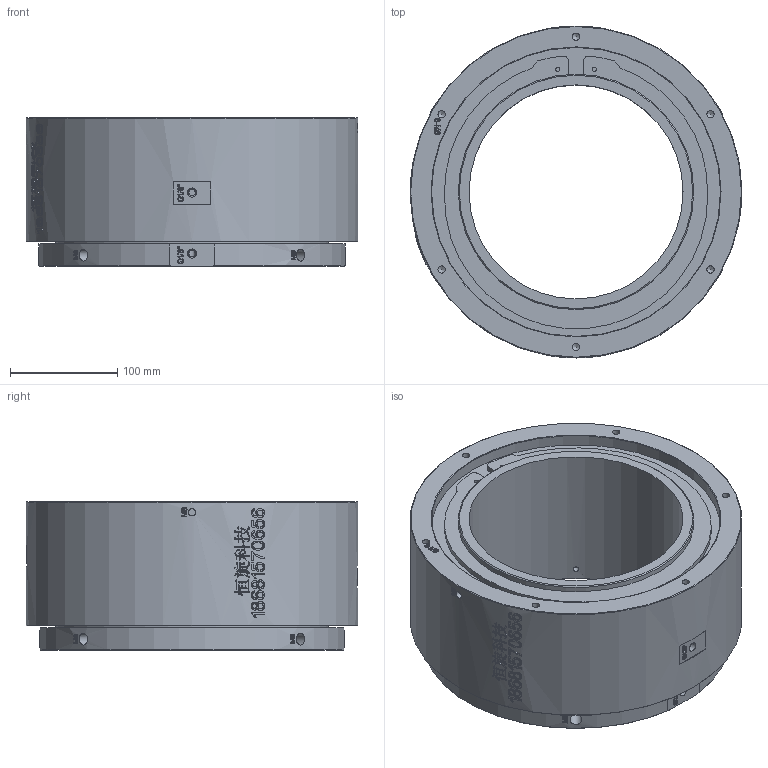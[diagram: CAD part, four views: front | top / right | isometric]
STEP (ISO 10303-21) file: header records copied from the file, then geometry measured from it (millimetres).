
FILE_DESCRIPTION(/* description */ (''),/* implementation_level */ '2;1');
FILE_NAME(/* name */ 'HQ0201-D200-3D模型.stp',/* time_stamp */ '2025-08-05T17:13:05+08:00',/* author */ (''),/* organization */ (''),/* preprocessor_version */ 'ST-DEVELOPER v16.7',/* originating_system */ 'SIEMENS PLM Software NX 12.0',/* authorisation */ '');
FILE_SCHEMA (('AUTOMOTIVE_DESIGN { 1 0 10303 214 3 1 1 1 }'));
Products named in the file (1): Admi16E026DChydn
Bounding box: 310.2 x 310 x 139.4 mm (x, y, z)
Volume: 5656078.9 mm3; surface area: 374363.2 mm2
Topology: 1 solids, 1 shells, 1263 faces, 3393 edges, 2266 vertices
Faces by surface type: extrusion 620, plane 473, cylinder 83, bspline 70, cone 17
Full cylindrical faces by diameter (mm): 4 x2, 5 x4, 6 x6, 6.7 x2, 6.8 x14, 8.5 x4, 11 x4, 200 x1, 210 x1, 220 x1, 255 x1, 270 x1, 300 x1, 310 x1
Entity records: 56407 total; most frequent: CARTESIAN_POINT 29991, ORIENTED_EDGE 6570, EDGE_CURVE 3285, B_SPLINE_CURVE_WITH_KNOTS 3091, DIRECTION 2880, VERTEX_POINT 2236, EDGE_LOOP 1475, ADVANCED_FACE 1263
